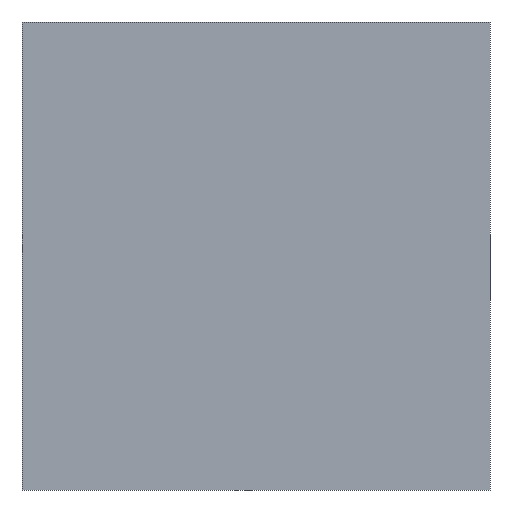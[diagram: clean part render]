
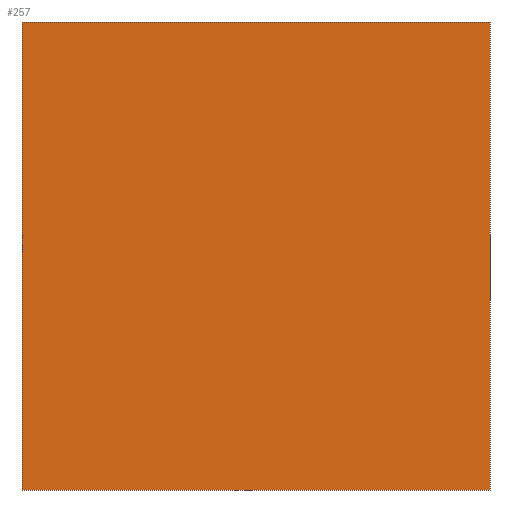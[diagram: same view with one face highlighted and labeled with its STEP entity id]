
A CAD part, front view. The second image highlights one B-rep face of the part: STEP entity #257.
In plain terms, the highlighted planar face has unit normal (0, -1, 0).
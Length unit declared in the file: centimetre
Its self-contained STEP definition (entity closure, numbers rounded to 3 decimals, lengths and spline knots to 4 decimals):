
#1 = CARTESIAN_POINT ( 'NONE',  ( 0., 0., 0. ) ) ;
#41 = EDGE_CURVE ( 'NONE', #128, #224, #311, .T. ) ;
#42 = DIRECTION ( 'NONE',  ( 0., 0., -1. ) ) ;
#48 = ORIENTED_EDGE ( 'NONE', *, *, #233, .T. ) ;
#73 = FACE_OUTER_BOUND ( 'NONE', #442, .T. ) ;
#83 = DIRECTION ( 'NONE',  ( 0., 1., 0. ) ) ;
#86 = ORIENTED_EDGE ( 'NONE', *, *, #41, .F. ) ;
#95 = CARTESIAN_POINT ( 'NONE',  ( 0., 0., 1000. ) ) ;
#114 = LINE ( 'NONE', #415, #360 ) ;
#116 = CARTESIAN_POINT ( 'NONE',  ( 1000., 0., 1000. ) ) ;
#128 = VERTEX_POINT ( 'NONE', #403 ) ;
#136 = CARTESIAN_POINT ( 'NONE',  ( 1000., 0., 0. ) ) ;
#154 = EDGE_CURVE ( 'NONE', #224, #190, #330, .T. ) ;
#155 = LINE ( 'NONE', #444, #408 ) ;
#190 = VERTEX_POINT ( 'NONE', #136 ) ;
#192 = AXIS2_PLACEMENT_3D ( 'NONE', #377, #83, #295 ) ;
#199 = ORIENTED_EDGE ( 'NONE', *, *, #154, .F. ) ;
#210 = DIRECTION ( 'NONE',  ( 0., 0., -1. ) ) ;
#214 = VECTOR ( 'NONE', #210, 100. ) ;
#224 = VERTEX_POINT ( 'NONE', #116 ) ;
#233 = EDGE_CURVE ( 'NONE', #331, #190, #155, .T. ) ;
#244 = DIRECTION ( 'NONE',  ( 1., 0., 0. ) ) ;
#257 = ADVANCED_FACE ( 'NONE', ( #73 ), #420, .F. ) ;
#260 = DIRECTION ( 'NONE',  ( 1., 0., 0. ) ) ;
#269 = EDGE_CURVE ( 'NONE', #128, #331, #114, .T. ) ;
#295 = DIRECTION ( 'NONE',  ( 0., 0., 1. ) ) ;
#311 = LINE ( 'NONE', #95, #335 ) ;
#317 = ORIENTED_EDGE ( 'NONE', *, *, #269, .T. ) ;
#330 = LINE ( 'NONE', #476, #214 ) ;
#331 = VERTEX_POINT ( 'NONE', #1 ) ;
#335 = VECTOR ( 'NONE', #244, 100. ) ;
#360 = VECTOR ( 'NONE', #42, 100. ) ;
#377 = CARTESIAN_POINT ( 'NONE',  ( 0., 0., 1000. ) ) ;
#403 = CARTESIAN_POINT ( 'NONE',  ( 0., 0., 1000. ) ) ;
#408 = VECTOR ( 'NONE', #260, 100. ) ;
#415 = CARTESIAN_POINT ( 'NONE',  ( 0., 0., 1000. ) ) ;
#420 = PLANE ( 'NONE',  #192 ) ;
#442 = EDGE_LOOP ( 'NONE', ( #48, #199, #86, #317 ) ) ;
#444 = CARTESIAN_POINT ( 'NONE',  ( 0., 0., 0. ) ) ;
#476 = CARTESIAN_POINT ( 'NONE',  ( 1000., 0., 1000. ) ) ;
